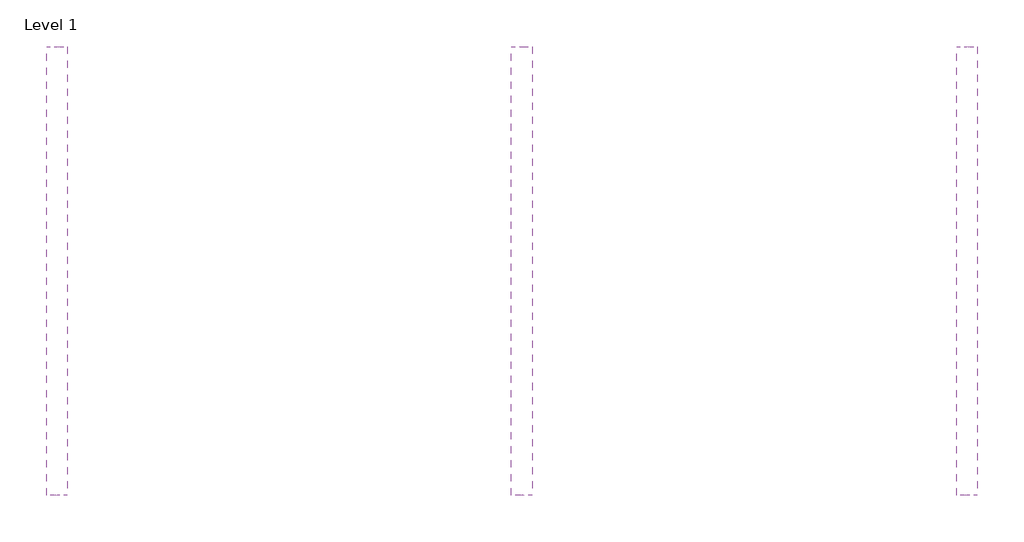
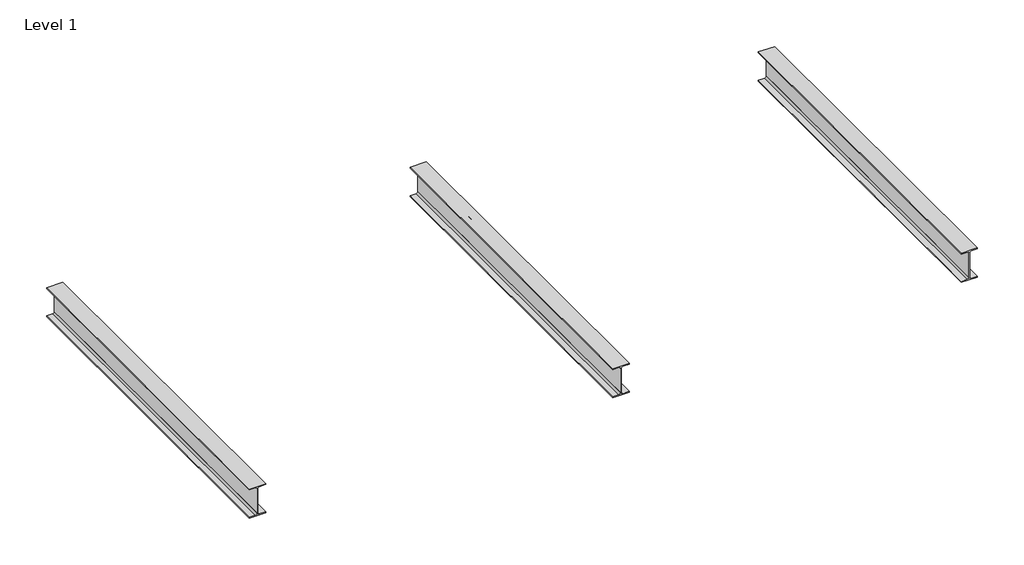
# One storey: 3 beams.
"""IFC4 building model written with IfcOpenShell, lengths in millimetres."""

from ifc_helpers import new_model, si_unit, origin, place, context, project, spatial, transform, mapped, element, save
from components import w_wide_flange_w12x26_c08ca6f5

model = new_model("IFC4")

# Units and contexts
model_context = context("Model", 3, world=origin())
ifc_project = project(units=[si_unit("LENGTHUNIT", "METRE", prefix="MILLI")], contexts=[model_context])

# Site, building, storey
site = spatial("IfcSite", under=ifc_project)
building = spatial("IfcBuilding", under=site)
storey = spatial("IfcBuildingStorey", under=building, Name="Level 1", Elevation=0.0)

# Beams
placement = place(None, origin())
w_wide_flange_w12x26_shape = w_wide_flange_w12x26_c08ca6f5(model_context)
element("IfcBeam", 1, ObjectType="W-Wide Flange : W12X26", at=placement, inside=storey, context=model_context, shape_type="MappedRepresentation", body=[
    mapped(w_wide_flange_w12x26_shape, transform((-14865.9414285, 17416.7403934, 2892.821875), x_axis=(0.0, -1.0, 0.0), y_axis=(1.0, 0.0, 0.0), z_axis=(0.0, 0.0, 1.0))),
])
element("IfcBeam", 2, ObjectType="W-Wide Flange : W12X26", at=placement, inside=storey, context=model_context, shape_type="MappedRepresentation", body=[
    mapped(w_wide_flange_w12x26_shape, transform((-11208.3414285, 17416.7403934, 2892.821875), x_axis=(0.0, -1.0, 0.0), y_axis=(1.0, 0.0, 0.0), z_axis=(0.0, 0.0, 1.0))),
])
element("IfcBeam", 3, ObjectType="W-Wide Flange : W12X26", at=placement, inside=storey, context=model_context, shape_type="MappedRepresentation", body=[
    mapped(w_wide_flange_w12x26_shape, transform((-7703.1414285, 17416.7403934, 2892.821875), x_axis=(0.0, -1.0, 0.0), y_axis=(1.0, 0.0, 0.0), z_axis=(0.0, 0.0, 1.0))),
])

save(model, "model.ifc")
